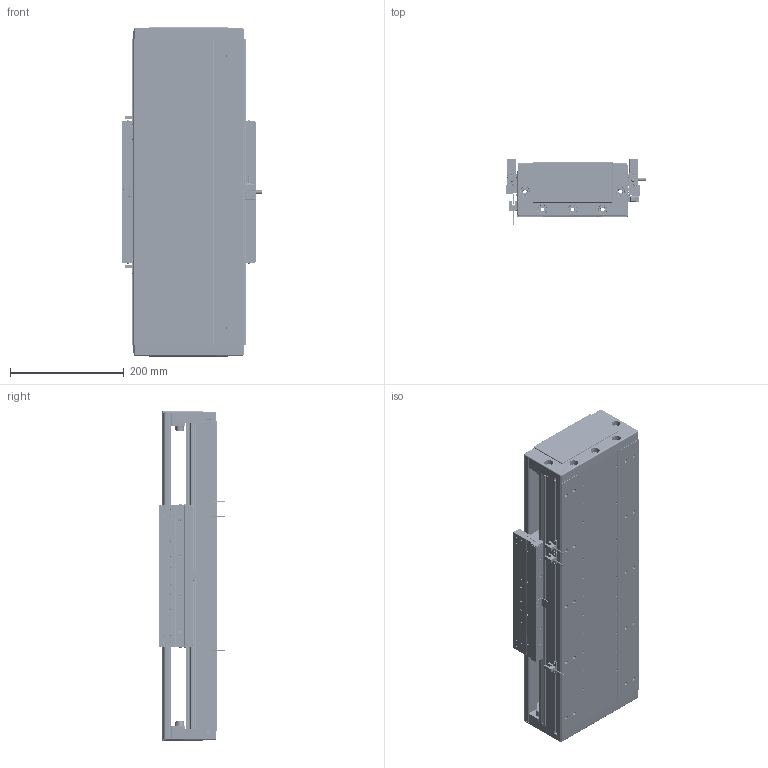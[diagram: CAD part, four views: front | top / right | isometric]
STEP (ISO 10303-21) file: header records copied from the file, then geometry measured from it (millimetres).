
FILE_DESCRIPTION (( 'STEP AP203' ), '1' );
FILE_NAME ('DA-C195-C3-T240-C010-0.2 眻盄萇儂.STEP', '2025-08-15T01:44:54', ( '' ), ( '' ), 'SwSTEP 2.0', 'SolidWorks 2019', '' );
FILE_SCHEMA (( 'CONFIG_CONTROL_DESIGN' ));
Length unit declared in the file: millimetre
Products named in the file (12): DA165-GYP-00 光电感应片(默认); DA95-HXJ-00 遣喳砎蝶; MS200 棠掑喜S315-T240; 66156-0001-003-00 裔啣; PM-T45ㄗ侂狟ㄘ; LMT黍杅芛; DA-C195-C3-T240-C010-0.2 眻盄萇儂; IU-CU195-L 菁釱絳寢; DA195-DG-H-00  端盖（压铸镂空版）; 葩璃 DA95-GT-T-00; IU-CU195-L-00 菁釱(L540); CU195-C3賑輸-俋楷
Assembly tree (20 placements, depth 3):
  DA-C195-C3-T240-C010-0.2 眻盄萇儂
    IU-CU195-L 菁釱絳寢
      IU-CU195-L-00 菁釱(L540)
      葩璃 DA95-GT-T-00  x4
    LMT黍杅芛
    MS200 棠掑喜S315-T240
    PM-T45ㄗ侂狟ㄘ  x3
    DA165-GYP-00 光电感应片(默认)
    DA195-DG-H-00  端盖（压铸镂空版）  x2
    DA95-HXJ-00 遣喳砎蝶  x4
    66156-0001-003-00 裔啣
    CU195-C3賑輸-俋楷
Bounding box: 248 x 115.6 x 580 mm (x, y, z)
Volume: 5193193 mm3; surface area: 1432979.8 mm2
Topology: 78 solids, 118 shells, 4947 faces, 12400 edges, 7491 vertices
Faces by surface type: cylinder 2024, plane 1589, bspline 710, cone 544, torus 44, sphere 36
Entity records: 131303 total; most frequent: CARTESIAN_POINT 39781, ORIENTED_EDGE 18886, DIRECTION 18518, EDGE_CURVE 9443, AXIS2_PLACEMENT_3D 6867, VERTEX_POINT 5921, LINE 4784, VECTOR 4784
